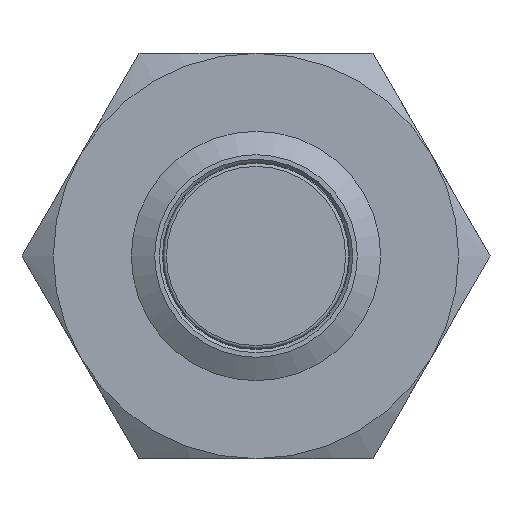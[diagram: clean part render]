
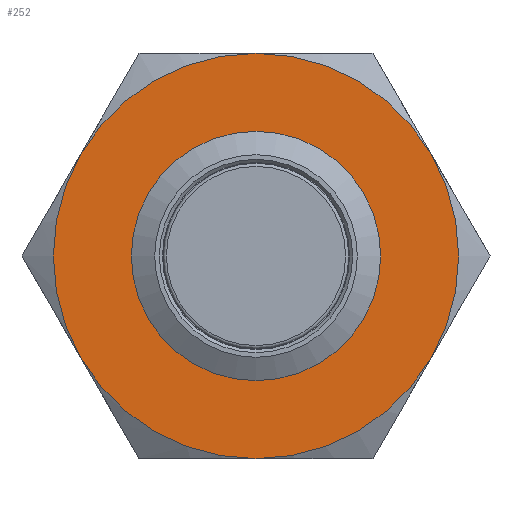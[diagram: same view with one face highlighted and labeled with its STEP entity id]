
A CAD part, left-side view. The second image highlights one B-rep face of the part: STEP entity #252.
In plain terms, the highlighted planar face has unit normal (-1, 0, 0).
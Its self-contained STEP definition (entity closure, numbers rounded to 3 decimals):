
#129=FACE_BOUND('',#439,.T.);
#130=FACE_BOUND('',#440,.T.);
#154=PLANE('',#1142);
#252=ADVANCED_FACE('',(#129,#130),#154,.F.);
#439=EDGE_LOOP('',(#734,#735,#736,#737,#738,#739));
#440=EDGE_LOOP('',(#740));
#456=CIRCLE('',#1031,4.);
#458=CIRCLE('',#1034,6.5);
#501=CIRCLE('',#1134,6.5);
#502=CIRCLE('',#1136,6.5);
#503=CIRCLE('',#1138,6.5);
#504=CIRCLE('',#1140,6.5);
#505=CIRCLE('',#1141,6.5);
#734=ORIENTED_EDGE('',*,*,#956,.F.);
#735=ORIENTED_EDGE('',*,*,#957,.F.);
#736=ORIENTED_EDGE('',*,*,#954,.F.);
#737=ORIENTED_EDGE('',*,*,#953,.F.);
#738=ORIENTED_EDGE('',*,*,#955,.F.);
#739=ORIENTED_EDGE('',*,*,#874,.F.);
#740=ORIENTED_EDGE('',*,*,#872,.T.);
#780=VERTEX_POINT('',#1578);
#782=VERTEX_POINT('',#1583);
#783=VERTEX_POINT('',#1584);
#826=VERTEX_POINT('',#1752);
#829=VERTEX_POINT('',#1786);
#831=VERTEX_POINT('',#1798);
#835=VERTEX_POINT('',#1850);
#872=EDGE_CURVE('',#780,#780,#456,.T.);
#874=EDGE_CURVE('',#782,#783,#458,.T.);
#953=EDGE_CURVE('',#835,#831,#501,.T.);
#954=EDGE_CURVE('',#831,#829,#502,.T.);
#955=EDGE_CURVE('',#783,#835,#503,.T.);
#956=EDGE_CURVE('',#826,#782,#504,.T.);
#957=EDGE_CURVE('',#829,#826,#505,.T.);
#1031=AXIS2_PLACEMENT_3D('',#1577,#1200,#1201);
#1034=AXIS2_PLACEMENT_3D('',#1582,#1206,#1207);
#1134=AXIS2_PLACEMENT_3D('',#1856,#1414,#1415);
#1136=AXIS2_PLACEMENT_3D('',#1858,#1418,#1419);
#1138=AXIS2_PLACEMENT_3D('',#1860,#1422,#1423);
#1140=AXIS2_PLACEMENT_3D('',#1862,#1426,#1427);
#1141=AXIS2_PLACEMENT_3D('',#1863,#1428,#1429);
#1142=AXIS2_PLACEMENT_3D('',#1864,#1430,#1431);
#1200=DIRECTION('',(1.,0.,0.));
#1201=DIRECTION('',(0.,0.,-1.));
#1206=DIRECTION('',(1.,0.,0.));
#1207=DIRECTION('',(0.,0.,-1.));
#1414=DIRECTION('',(1.,0.,0.));
#1415=DIRECTION('',(0.,0.,-1.));
#1418=DIRECTION('',(1.,0.,0.));
#1419=DIRECTION('',(0.,0.,-1.));
#1422=DIRECTION('',(1.,0.,0.));
#1423=DIRECTION('',(0.,0.,-1.));
#1426=DIRECTION('',(1.,0.,0.));
#1427=DIRECTION('',(0.,0.,-1.));
#1428=DIRECTION('',(1.,0.,0.));
#1429=DIRECTION('',(0.,0.,-1.));
#1430=DIRECTION('',(1.,0.,0.));
#1431=DIRECTION('',(0.,0.,1.));
#1577=CARTESIAN_POINT('',(2.,0.,0.));
#1578=CARTESIAN_POINT('',(2.,0.,-4.));
#1582=CARTESIAN_POINT('',(2.,0.,0.));
#1583=CARTESIAN_POINT('',(2.,5.629,3.25));
#1584=CARTESIAN_POINT('',(2.,0.,6.5));
#1752=CARTESIAN_POINT('',(2.,5.629,-3.25));
#1786=CARTESIAN_POINT('',(2.,0.,-6.5));
#1798=CARTESIAN_POINT('',(2.,-5.629,-3.25));
#1850=CARTESIAN_POINT('',(2.,-5.629,3.25));
#1856=CARTESIAN_POINT('',(2.,0.,0.));
#1858=CARTESIAN_POINT('',(2.,0.,0.));
#1860=CARTESIAN_POINT('',(2.,0.,0.));
#1862=CARTESIAN_POINT('',(2.,0.,0.));
#1863=CARTESIAN_POINT('',(2.,0.,0.));
#1864=CARTESIAN_POINT('',(2.,0.,0.));
